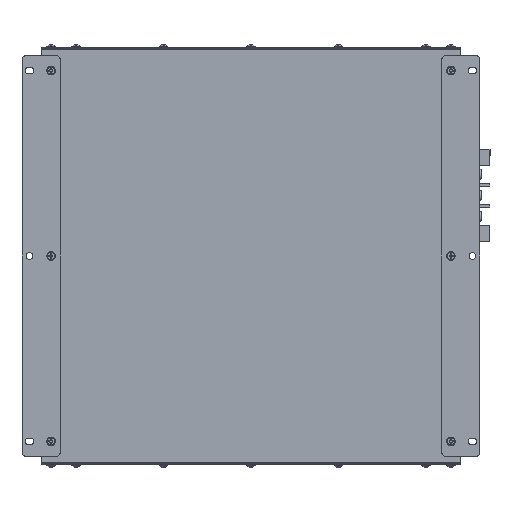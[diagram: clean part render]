
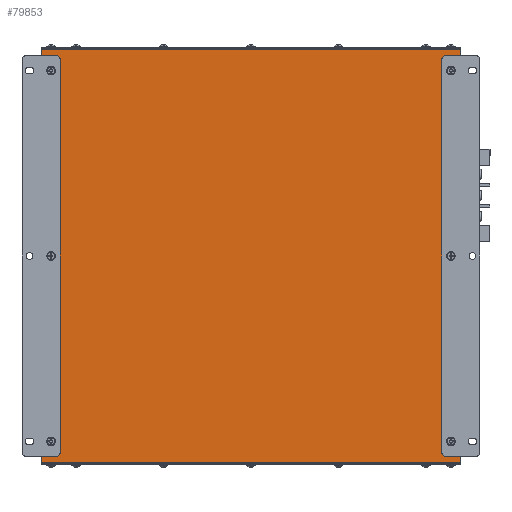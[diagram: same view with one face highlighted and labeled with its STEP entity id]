
A CAD part, front view. The second image highlights one B-rep face of the part: STEP entity #79853.
In plain terms, the highlighted planar face has unit normal (0, -1, 0).
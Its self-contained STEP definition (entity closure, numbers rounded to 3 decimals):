
#4439=PLANE('',#84030);
#7112=LINE('',#113781,#13368);
#7114=LINE('',#113785,#13370);
#7140=LINE('',#114054,#13396);
#7141=LINE('',#114056,#13397);
#7142=LINE('',#114057,#13398);
#7143=LINE('',#114059,#13399);
#7144=LINE('',#114063,#13400);
#7145=LINE('',#114066,#13401);
#7146=LINE('',#114068,#13402);
#7147=LINE('',#114070,#13403);
#7148=LINE('',#114072,#13404);
#7149=LINE('',#114076,#13405);
#13368=VECTOR('',#91734,0.394);
#13370=VECTOR('',#91736,0.394);
#13396=VECTOR('',#91980,0.394);
#13397=VECTOR('',#91981,0.394);
#13398=VECTOR('',#91982,0.394);
#13399=VECTOR('',#91983,0.394);
#13400=VECTOR('',#91986,0.394);
#13401=VECTOR('',#91989,0.394);
#13402=VECTOR('',#91990,0.394);
#13403=VECTOR('',#91991,0.394);
#13404=VECTOR('',#91992,0.394);
#13405=VECTOR('',#91995,0.394);
#20377=FACE_OUTER_BOUND('',#24421,.T.);
#24421=EDGE_LOOP('',(#54445,#54446,#54447,#54448,#54449,#54450,#54451,#54452,
#54453,#54454,#54455,#54456,#54457,#54458,#54459,#54460));
#28806=CIRCLE('',#84031,0.157);
#28807=CIRCLE('',#84032,0.157);
#28808=CIRCLE('',#84033,0.157);
#28809=CIRCLE('',#84034,0.157);
#32242=VERTEX_POINT('',#113778);
#32243=VERTEX_POINT('',#113780);
#32244=VERTEX_POINT('',#113782);
#32245=VERTEX_POINT('',#113784);
#32378=VERTEX_POINT('',#114052);
#32379=VERTEX_POINT('',#114053);
#32380=VERTEX_POINT('',#114055);
#32381=VERTEX_POINT('',#114058);
#32382=VERTEX_POINT('',#114060);
#32383=VERTEX_POINT('',#114062);
#32384=VERTEX_POINT('',#114064);
#32385=VERTEX_POINT('',#114067);
#32386=VERTEX_POINT('',#114069);
#32387=VERTEX_POINT('',#114071);
#32388=VERTEX_POINT('',#114073);
#32389=VERTEX_POINT('',#114075);
#41056=EDGE_CURVE('',#32242,#32243,#7112,.T.);
#41058=EDGE_CURVE('',#32244,#32245,#7114,.T.);
#41192=EDGE_CURVE('',#32378,#32379,#7140,.T.);
#41193=EDGE_CURVE('',#32380,#32379,#7141,.T.);
#41194=EDGE_CURVE('',#32245,#32380,#7142,.T.);
#41195=EDGE_CURVE('',#32244,#32381,#7143,.T.);
#41196=EDGE_CURVE('',#32381,#32382,#28806,.T.);
#41197=EDGE_CURVE('',#32382,#32383,#7144,.T.);
#41198=EDGE_CURVE('',#32383,#32384,#28807,.T.);
#41199=EDGE_CURVE('',#32384,#32243,#7145,.T.);
#41200=EDGE_CURVE('',#32385,#32242,#7146,.T.);
#41201=EDGE_CURVE('',#32386,#32385,#7147,.T.);
#41202=EDGE_CURVE('',#32386,#32387,#7148,.T.);
#41203=EDGE_CURVE('',#32387,#32388,#28808,.T.);
#41204=EDGE_CURVE('',#32388,#32389,#7149,.T.);
#41205=EDGE_CURVE('',#32389,#32378,#28809,.T.);
#54445=ORIENTED_EDGE('',*,*,#41192,.T.);
#54446=ORIENTED_EDGE('',*,*,#41193,.F.);
#54447=ORIENTED_EDGE('',*,*,#41194,.F.);
#54448=ORIENTED_EDGE('',*,*,#41058,.F.);
#54449=ORIENTED_EDGE('',*,*,#41195,.T.);
#54450=ORIENTED_EDGE('',*,*,#41196,.T.);
#54451=ORIENTED_EDGE('',*,*,#41197,.T.);
#54452=ORIENTED_EDGE('',*,*,#41198,.T.);
#54453=ORIENTED_EDGE('',*,*,#41199,.T.);
#54454=ORIENTED_EDGE('',*,*,#41056,.F.);
#54455=ORIENTED_EDGE('',*,*,#41200,.F.);
#54456=ORIENTED_EDGE('',*,*,#41201,.F.);
#54457=ORIENTED_EDGE('',*,*,#41202,.T.);
#54458=ORIENTED_EDGE('',*,*,#41203,.T.);
#54459=ORIENTED_EDGE('',*,*,#41204,.T.);
#54460=ORIENTED_EDGE('',*,*,#41205,.T.);
#79853=ADVANCED_FACE('',(#20377),#4439,.F.);
#84030=AXIS2_PLACEMENT_3D('',#114051,#91978,#91979);
#84031=AXIS2_PLACEMENT_3D('',#114061,#91984,#91985);
#84032=AXIS2_PLACEMENT_3D('',#114065,#91987,#91988);
#84033=AXIS2_PLACEMENT_3D('',#114074,#91993,#91994);
#84034=AXIS2_PLACEMENT_3D('',#114077,#91996,#91997);
#91734=DIRECTION('',(0.,0.,1.));
#91736=DIRECTION('',(0.,0.,1.));
#91978=DIRECTION('center_axis',(0.,1.,0.));
#91979=DIRECTION('ref_axis',(0.,0.,1.));
#91980=DIRECTION('',(1.,0.,0.));
#91981=DIRECTION('',(0.,0.,-1.));
#91982=DIRECTION('',(1.,0.,0.));
#91983=DIRECTION('',(1.,0.,0.));
#91984=DIRECTION('center_axis',(0.,1.,0.));
#91985=DIRECTION('ref_axis',(1.,0.,0.));
#91986=DIRECTION('',(0.,0.,-1.));
#91987=DIRECTION('center_axis',(0.,1.,0.));
#91988=DIRECTION('ref_axis',(0.,0.,-1.));
#91989=DIRECTION('',(-1.,0.,0.));
#91990=DIRECTION('',(-1.,0.,0.));
#91991=DIRECTION('',(0.,0.,-1.));
#91992=DIRECTION('',(-1.,0.,0.));
#91993=DIRECTION('center_axis',(0.,1.,0.));
#91994=DIRECTION('ref_axis',(-1.,0.,0.));
#91995=DIRECTION('',(0.,0.,1.));
#91996=DIRECTION('center_axis',(0.,1.,0.));
#91997=DIRECTION('ref_axis',(0.,0.,1.));
#113778=CARTESIAN_POINT('',(-0.973,0.,-16.565));
#113780=CARTESIAN_POINT('',(-0.973,0.,-16.325));
#113781=CARTESIAN_POINT('',(-0.973,0.,-16.565));
#113782=CARTESIAN_POINT('',(-0.973,0.,-0.577));
#113784=CARTESIAN_POINT('',(-0.973,0.,-0.336));
#113785=CARTESIAN_POINT('',(-0.973,0.,-16.565));
#114051=CARTESIAN_POINT('Origin',(7.275,0.,-8.451));
#114052=CARTESIAN_POINT('',(14.932,0.,-0.577));
#114053=CARTESIAN_POINT('',(15.523,0.,-0.577));
#114054=CARTESIAN_POINT('',(11.694,0.,-0.577));
#114055=CARTESIAN_POINT('',(15.523,0.,-0.336));
#114056=CARTESIAN_POINT('',(15.523,0.,-0.336));
#114057=CARTESIAN_POINT('',(-0.973,0.,-0.336));
#114058=CARTESIAN_POINT('',(-0.383,0.,-0.577));
#114059=CARTESIAN_POINT('',(3.446,0.,-0.577));
#114060=CARTESIAN_POINT('',(-0.225,0.,-0.734));
#114061=CARTESIAN_POINT('Origin',(-0.383,0.,-0.734));
#114062=CARTESIAN_POINT('',(-0.225,0.,-16.167));
#114063=CARTESIAN_POINT('',(-0.225,0.,-12.309));
#114064=CARTESIAN_POINT('',(-0.383,0.,-16.325));
#114065=CARTESIAN_POINT('Origin',(-0.383,0.,-16.167));
#114066=CARTESIAN_POINT('',(2.855,0.,-16.325));
#114067=CARTESIAN_POINT('',(15.523,0.,-16.565));
#114068=CARTESIAN_POINT('',(15.523,0.,-16.565));
#114069=CARTESIAN_POINT('',(15.523,0.,-16.325));
#114070=CARTESIAN_POINT('',(15.523,0.,-0.336));
#114071=CARTESIAN_POINT('',(14.932,0.,-16.325));
#114072=CARTESIAN_POINT('',(11.103,0.,-16.325));
#114073=CARTESIAN_POINT('',(14.775,0.,-16.167));
#114074=CARTESIAN_POINT('Origin',(14.932,0.,-16.167));
#114075=CARTESIAN_POINT('',(14.775,0.,-0.734));
#114076=CARTESIAN_POINT('',(14.775,0.,-4.592));
#114077=CARTESIAN_POINT('Origin',(14.932,0.,-0.734));
